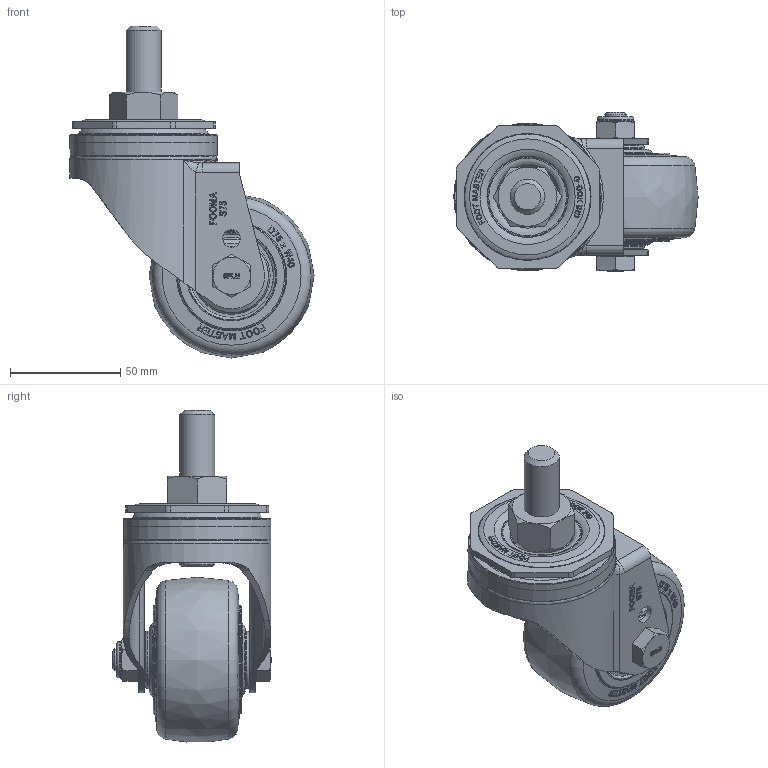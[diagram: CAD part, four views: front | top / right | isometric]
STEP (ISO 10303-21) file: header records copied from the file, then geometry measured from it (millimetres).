
FILE_DESCRIPTION(/* description */ (''),/* implementation_level */ '2;1');
FILE_NAME(/* name */ '\\192.168.10.38\지덕공유\1.기술연구소\2.연구개발 진행중\98.스테인레스캐스터 개발건_2023.10.26\제품설계\3D\홈페이지용\SPLM-75-ASS-HRD.stp',/* time_stamp */ '2025-02-20T16:27:36+09:00',/* author */ ('admin'),/* organization */ ('지덕산업'),/* preprocessor_version */ 'ST-DEVELOPER v18.1',/* originating_system */ 'Autodesk Inventor 2021',/* authorisation */ '');
FILE_SCHEMA (('CONFIG_CONTROL_DESIGN'));
Length unit declared in the file: millimetre
Products named in the file (1): SPLM-75-ASS-HRD
Bounding box: 111 x 72.3 x 150.83 mm (x, y, z)
Volume: 275357.9 mm3; surface area: 54345.4 mm2
Topology: 1 solids, 1 shells, 1286 faces, 3462 edges, 2284 vertices
Faces by surface type: plane 626, bspline 432, cone 98, cylinder 98, torus 32
Full cylindrical faces by diameter (mm): 8 x2, 10 x1, 11 x1, 14.8 x2, 15.875 x1, 16 x2, 16.5 x1, 30 x1, 40.105 x1, 40.971 x1, 54 x1, 67 x1
Entity records: 43221 total; most frequent: CARTESIAN_POINT 15209, ORIENTED_EDGE 6916, DIRECTION 4066, EDGE_CURVE 3458, VERTEX_POINT 2284, LINE 1702, VECTOR 1702, EDGE_LOOP 1402
